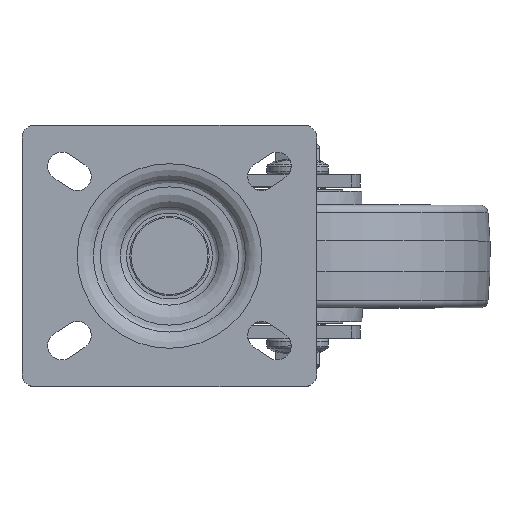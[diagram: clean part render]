
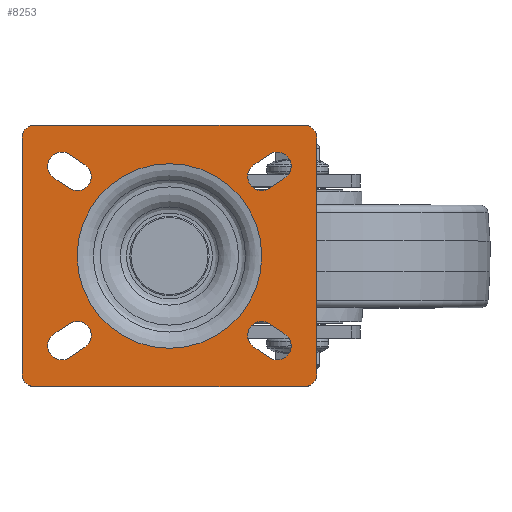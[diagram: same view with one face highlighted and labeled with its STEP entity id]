
A CAD part, top view. The second image highlights one B-rep face of the part: STEP entity #8253.
In plain terms, the highlighted planar face has unit normal (0, 0, 1).
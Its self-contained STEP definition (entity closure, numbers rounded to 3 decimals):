
#7255=CARTESIAN_POINT('',(63.204,103.967,0.));
#7256=VERTEX_POINT('',#7255);
#7257=CARTESIAN_POINT('',(27.207,103.967,0.));
#7258=DIRECTION('',(0.0,0.0,1.0));
#7259=DIRECTION('',(1.0,0.0,0.0));
#7260=AXIS2_PLACEMENT_3D('',#7257,#7258,#7259);
#7261=CIRCLE('',#7260,35.997);
#7262=EDGE_CURVE('',#7256,#7256,#7261,.T.);
#7415=CARTESIAN_POINT('',(-25.293,154.967,0.));
#7416=VERTEX_POINT('',#7415);
#7423=CARTESIAN_POINT('',(79.707,154.967,0.));
#7424=VERTEX_POINT('',#7423);
#7425=CARTESIAN_POINT('',(-25.293,154.967,0.));
#7426=DIRECTION('',(1.0,0.0,0.0));
#7427=VECTOR('',#7426,105.);
#7428=LINE('',#7425,#7427);
#7429=EDGE_CURVE('',#7416,#7424,#7428,.T.);
#7454=CARTESIAN_POINT('',(-30.293,149.967,0.));
#7455=VERTEX_POINT('',#7454);
#7462=CARTESIAN_POINT('',(-25.293,149.967,0.));
#7463=DIRECTION('',(0.0,0.0,-1.0));
#7464=DIRECTION('',(-1.0,0.0,0.0));
#7465=AXIS2_PLACEMENT_3D('',#7462,#7463,#7464);
#7466=CIRCLE('',#7465,5.0);
#7467=EDGE_CURVE('',#7455,#7416,#7466,.T.);
#7486=CARTESIAN_POINT('',(-30.293,57.967,0.));
#7487=VERTEX_POINT('',#7486);
#7494=CARTESIAN_POINT('',(-30.293,57.967,0.));
#7495=DIRECTION('',(0.0,1.0,0.0));
#7496=VECTOR('',#7495,92.0);
#7497=LINE('',#7494,#7496);
#7498=EDGE_CURVE('',#7487,#7455,#7497,.T.);
#7518=CARTESIAN_POINT('',(-25.293,52.967,0.));
#7519=VERTEX_POINT('',#7518);
#7526=CARTESIAN_POINT('',(-25.293,57.967,0.));
#7527=DIRECTION('',(0.0,0.0,-1.0));
#7528=DIRECTION('',(-1.0,0.0,0.0));
#7529=AXIS2_PLACEMENT_3D('',#7526,#7527,#7528);
#7530=CIRCLE('',#7529,5.0);
#7531=EDGE_CURVE('',#7519,#7487,#7530,.T.);
#7550=CARTESIAN_POINT('',(79.707,52.967,0.));
#7551=VERTEX_POINT('',#7550);
#7558=CARTESIAN_POINT('',(79.707,52.967,0.));
#7559=DIRECTION('',(-1.0,0.0,0.0));
#7560=VECTOR('',#7559,105.);
#7561=LINE('',#7558,#7560);
#7562=EDGE_CURVE('',#7551,#7519,#7561,.T.);
#7582=CARTESIAN_POINT('',(84.707,57.967,0.));
#7583=VERTEX_POINT('',#7582);
#7590=CARTESIAN_POINT('',(79.707,57.967,0.));
#7591=DIRECTION('',(0.0,0.0,-1.0));
#7592=DIRECTION('',(-1.0,0.0,0.0));
#7593=AXIS2_PLACEMENT_3D('',#7590,#7591,#7592);
#7594=CIRCLE('',#7593,5.0);
#7595=EDGE_CURVE('',#7583,#7551,#7594,.T.);
#7614=CARTESIAN_POINT('',(84.707,149.967,0.));
#7615=VERTEX_POINT('',#7614);
#7622=CARTESIAN_POINT('',(84.707,149.967,0.));
#7623=DIRECTION('',(0.0,-1.0,0.0));
#7624=VECTOR('',#7623,92.);
#7625=LINE('',#7622,#7624);
#7626=EDGE_CURVE('',#7615,#7583,#7625,.T.);
#7645=CARTESIAN_POINT('',(79.707,149.967,0.));
#7646=DIRECTION('',(0.0,0.0,-1.0));
#7647=DIRECTION('',(-1.0,0.0,0.0));
#7648=AXIS2_PLACEMENT_3D('',#7645,#7646,#7647);
#7649=CIRCLE('',#7648,5.0);
#7650=EDGE_CURVE('',#7424,#7615,#7649,.T.);
#7672=CARTESIAN_POINT('',(66.258,77.543,0.));
#7673=VERTEX_POINT('',#7672);
#7680=CARTESIAN_POINT('',(60.156,68.391,0.));
#7681=VERTEX_POINT('',#7680);
#7682=CARTESIAN_POINT('',(63.207,72.967,0.));
#7683=DIRECTION('',(0.0,0.0,-1.0));
#7684=DIRECTION('',(-1.0,0.0,0.0));
#7685=AXIS2_PLACEMENT_3D('',#7682,#7683,#7684);
#7686=CIRCLE('',#7685,5.5);
#7687=EDGE_CURVE('',#7681,#7673,#7686,.T.);
#7711=CARTESIAN_POINT('',(72.258,73.543,0.));
#7712=VERTEX_POINT('',#7711);
#7719=CARTESIAN_POINT('',(66.258,77.543,0.));
#7720=DIRECTION('',(0.832,-0.555,0.0));
#7721=VECTOR('',#7720,7.211);
#7722=LINE('',#7719,#7721);
#7723=EDGE_CURVE('',#7673,#7712,#7722,.T.);
#7743=CARTESIAN_POINT('',(66.156,64.391,0.));
#7744=VERTEX_POINT('',#7743);
#7751=CARTESIAN_POINT('',(69.207,68.967,0.));
#7752=DIRECTION('',(0.0,0.0,-1.0));
#7753=DIRECTION('',(-1.0,0.0,0.0));
#7754=AXIS2_PLACEMENT_3D('',#7751,#7752,#7753);
#7755=CIRCLE('',#7754,5.5);
#7756=EDGE_CURVE('',#7712,#7744,#7755,.T.);
#7774=CARTESIAN_POINT('',(66.156,64.391,0.));
#7775=DIRECTION('',(-0.832,0.555,0.0));
#7776=VECTOR('',#7775,7.211);
#7777=LINE('',#7774,#7776);
#7778=EDGE_CURVE('',#7744,#7681,#7777,.T.);
#7800=CARTESIAN_POINT('',(-5.742,68.391,0.));
#7801=VERTEX_POINT('',#7800);
#7808=CARTESIAN_POINT('',(-11.844,77.543,0.));
#7809=VERTEX_POINT('',#7808);
#7810=CARTESIAN_POINT('',(-8.793,72.967,0.));
#7811=DIRECTION('',(0.0,0.0,-1.0));
#7812=DIRECTION('',(-1.0,0.0,0.0));
#7813=AXIS2_PLACEMENT_3D('',#7810,#7811,#7812);
#7814=CIRCLE('',#7813,5.5);
#7815=EDGE_CURVE('',#7809,#7801,#7814,.T.);
#7839=CARTESIAN_POINT('',(-11.742,64.391,0.));
#7840=VERTEX_POINT('',#7839);
#7847=CARTESIAN_POINT('',(-5.742,68.391,0.));
#7848=DIRECTION('',(-0.832,-0.555,0.0));
#7849=VECTOR('',#7848,7.211);
#7850=LINE('',#7847,#7849);
#7851=EDGE_CURVE('',#7801,#7840,#7850,.T.);
#7871=CARTESIAN_POINT('',(-17.844,73.543,0.));
#7872=VERTEX_POINT('',#7871);
#7879=CARTESIAN_POINT('',(-14.793,68.967,0.));
#7880=DIRECTION('',(0.0,0.0,-1.0));
#7881=DIRECTION('',(-1.0,0.0,0.0));
#7882=AXIS2_PLACEMENT_3D('',#7879,#7880,#7881);
#7883=CIRCLE('',#7882,5.5);
#7884=EDGE_CURVE('',#7840,#7872,#7883,.T.);
#7902=CARTESIAN_POINT('',(-17.844,73.543,0.));
#7903=DIRECTION('',(0.832,0.555,0.0));
#7904=VECTOR('',#7903,7.211);
#7905=LINE('',#7902,#7904);
#7906=EDGE_CURVE('',#7872,#7809,#7905,.T.);
#7928=CARTESIAN_POINT('',(60.156,139.543,0.));
#7929=VERTEX_POINT('',#7928);
#7936=CARTESIAN_POINT('',(66.258,130.391,0.));
#7937=VERTEX_POINT('',#7936);
#7938=CARTESIAN_POINT('',(63.207,134.967,0.));
#7939=DIRECTION('',(0.0,0.0,-1.0));
#7940=DIRECTION('',(-1.0,0.0,0.0));
#7941=AXIS2_PLACEMENT_3D('',#7938,#7939,#7940);
#7942=CIRCLE('',#7941,5.5);
#7943=EDGE_CURVE('',#7937,#7929,#7942,.T.);
#7967=CARTESIAN_POINT('',(66.156,143.543,0.));
#7968=VERTEX_POINT('',#7967);
#7975=CARTESIAN_POINT('',(60.156,139.543,0.));
#7976=DIRECTION('',(0.832,0.555,0.0));
#7977=VECTOR('',#7976,7.211);
#7978=LINE('',#7975,#7977);
#7979=EDGE_CURVE('',#7929,#7968,#7978,.T.);
#7999=CARTESIAN_POINT('',(72.258,134.391,0.));
#8000=VERTEX_POINT('',#7999);
#8007=CARTESIAN_POINT('',(69.207,138.967,0.));
#8008=DIRECTION('',(0.0,0.0,-1.0));
#8009=DIRECTION('',(-1.0,0.0,0.0));
#8010=AXIS2_PLACEMENT_3D('',#8007,#8008,#8009);
#8011=CIRCLE('',#8010,5.5);
#8012=EDGE_CURVE('',#7968,#8000,#8011,.T.);
#8030=CARTESIAN_POINT('',(72.258,134.391,0.));
#8031=DIRECTION('',(-0.832,-0.555,0.0));
#8032=VECTOR('',#8031,7.211);
#8033=LINE('',#8030,#8032);
#8034=EDGE_CURVE('',#8000,#7937,#8033,.T.);
#8056=CARTESIAN_POINT('',(-11.844,130.391,0.));
#8057=VERTEX_POINT('',#8056);
#8064=CARTESIAN_POINT('',(-5.742,139.543,0.));
#8065=VERTEX_POINT('',#8064);
#8066=CARTESIAN_POINT('',(-8.793,134.967,0.));
#8067=DIRECTION('',(0.0,0.0,-1.0));
#8068=DIRECTION('',(-1.0,0.0,0.0));
#8069=AXIS2_PLACEMENT_3D('',#8066,#8067,#8068);
#8070=CIRCLE('',#8069,5.5);
#8071=EDGE_CURVE('',#8065,#8057,#8070,.T.);
#8095=CARTESIAN_POINT('',(-17.844,134.391,0.));
#8096=VERTEX_POINT('',#8095);
#8103=CARTESIAN_POINT('',(-11.844,130.391,0.));
#8104=DIRECTION('',(-0.832,0.555,0.0));
#8105=VECTOR('',#8104,7.211);
#8106=LINE('',#8103,#8105);
#8107=EDGE_CURVE('',#8057,#8096,#8106,.T.);
#8127=CARTESIAN_POINT('',(-11.742,143.543,0.));
#8128=VERTEX_POINT('',#8127);
#8135=CARTESIAN_POINT('',(-14.793,138.967,0.));
#8136=DIRECTION('',(0.0,0.0,-1.0));
#8137=DIRECTION('',(-1.0,0.0,0.0));
#8138=AXIS2_PLACEMENT_3D('',#8135,#8136,#8137);
#8139=CIRCLE('',#8138,5.5);
#8140=EDGE_CURVE('',#8096,#8128,#8139,.T.);
#8158=CARTESIAN_POINT('',(-11.742,143.543,0.));
#8159=DIRECTION('',(0.832,-0.555,0.0));
#8160=VECTOR('',#8159,7.211);
#8161=LINE('',#8158,#8160);
#8162=EDGE_CURVE('',#8128,#8065,#8161,.T.);
#8211=CARTESIAN_POINT('',(64.456,103.967,0.));
#8212=DIRECTION('',(0.0,0.0,1.0));
#8213=DIRECTION('',(0.0,1.0,0.0));
#8214=AXIS2_PLACEMENT_3D('',#8211,#8212,#8213);
#8215=PLANE('',#8214);
#8216=ORIENTED_EDGE('',*,*,#7650,.F.);
#8217=ORIENTED_EDGE('',*,*,#7429,.F.);
#8218=ORIENTED_EDGE('',*,*,#7467,.F.);
#8219=ORIENTED_EDGE('',*,*,#7498,.F.);
#8220=ORIENTED_EDGE('',*,*,#7531,.F.);
#8221=ORIENTED_EDGE('',*,*,#7562,.F.);
#8222=ORIENTED_EDGE('',*,*,#7595,.F.);
#8223=ORIENTED_EDGE('',*,*,#7626,.F.);
#8224=EDGE_LOOP('',(#8216,#8217,#8218,#8219,#8220,#8221,#8222,#8223));
#8225=FACE_OUTER_BOUND('',#8224,.T.);
#8226=ORIENTED_EDGE('',*,*,#8162,.T.);
#8227=ORIENTED_EDGE('',*,*,#8071,.T.);
#8228=ORIENTED_EDGE('',*,*,#8107,.T.);
#8229=ORIENTED_EDGE('',*,*,#8140,.T.);
#8230=EDGE_LOOP('',(#8226,#8227,#8228,#8229));
#8231=FACE_BOUND('',#8230,.T.);
#8232=ORIENTED_EDGE('',*,*,#8034,.T.);
#8233=ORIENTED_EDGE('',*,*,#7943,.T.);
#8234=ORIENTED_EDGE('',*,*,#7979,.T.);
#8235=ORIENTED_EDGE('',*,*,#8012,.T.);
#8236=EDGE_LOOP('',(#8232,#8233,#8234,#8235));
#8237=FACE_BOUND('',#8236,.T.);
#8238=ORIENTED_EDGE('',*,*,#7906,.T.);
#8239=ORIENTED_EDGE('',*,*,#7815,.T.);
#8240=ORIENTED_EDGE('',*,*,#7851,.T.);
#8241=ORIENTED_EDGE('',*,*,#7884,.T.);
#8242=EDGE_LOOP('',(#8238,#8239,#8240,#8241));
#8243=FACE_BOUND('',#8242,.T.);
#8244=ORIENTED_EDGE('',*,*,#7778,.T.);
#8245=ORIENTED_EDGE('',*,*,#7687,.T.);
#8246=ORIENTED_EDGE('',*,*,#7723,.T.);
#8247=ORIENTED_EDGE('',*,*,#7756,.T.);
#8248=EDGE_LOOP('',(#8244,#8245,#8246,#8247));
#8249=FACE_BOUND('',#8248,.T.);
#8250=ORIENTED_EDGE('',*,*,#7262,.F.);
#8251=EDGE_LOOP('',(#8250));
#8252=FACE_BOUND('',#8251,.T.);
#8253=ADVANCED_FACE('',(#8225,#8231,#8237,#8243,#8249,#8252),#8215,.T.);
